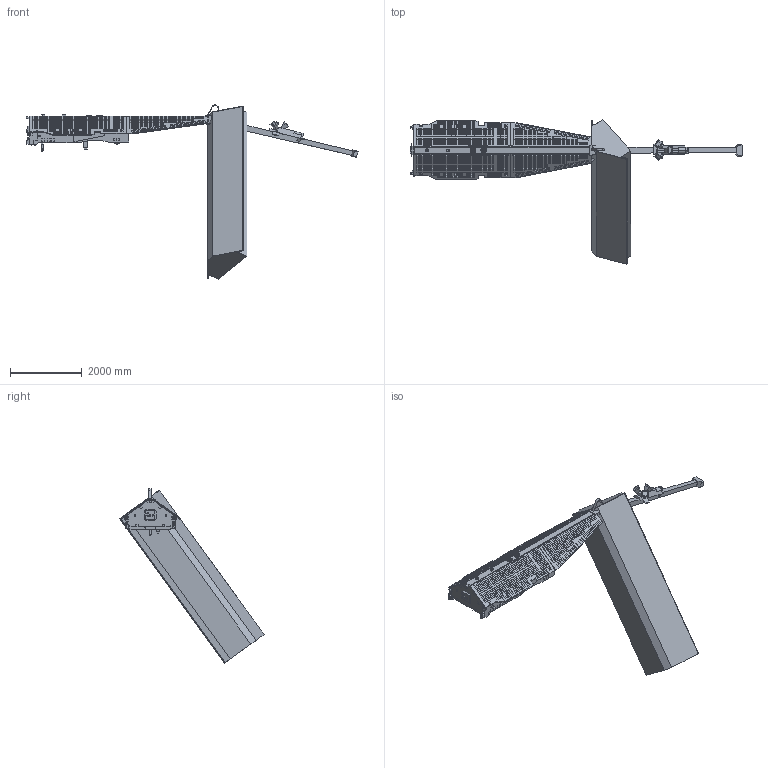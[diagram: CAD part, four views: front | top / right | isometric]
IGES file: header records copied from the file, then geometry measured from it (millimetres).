
Start section: START RECORD GO HERE.
Global section: file name: Swarm_CAD_IGS.igs; native system: DASSAULT SYSTEMES CATIA V5 R21 - www.3ds.com; preprocessor: CATIA Version 5 Release 21 SP 6 ; author: gmarch; organization: DASTUD; date: 20180314.172643; units: millimetre
Bounding box: 9223.12 x 4008.88 x 4838.45 mm (x, y, z)
Surface area: 49322626.3 mm2 (no closed solid volume)
Topology: 0 solids, 0 shells, 5703 faces, 27894 edges, 27882 vertices
Faces by surface type: plane 5621, revolution 82
